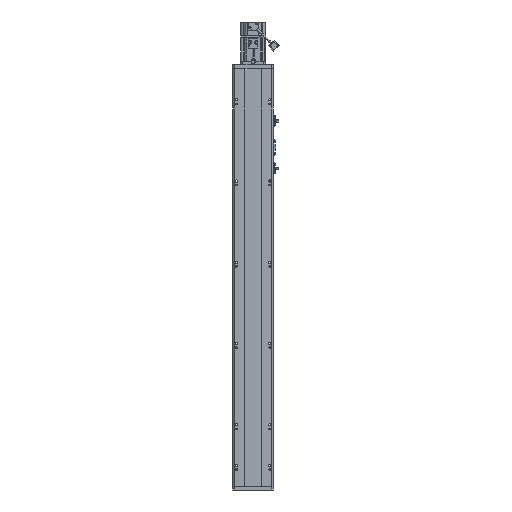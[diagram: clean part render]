
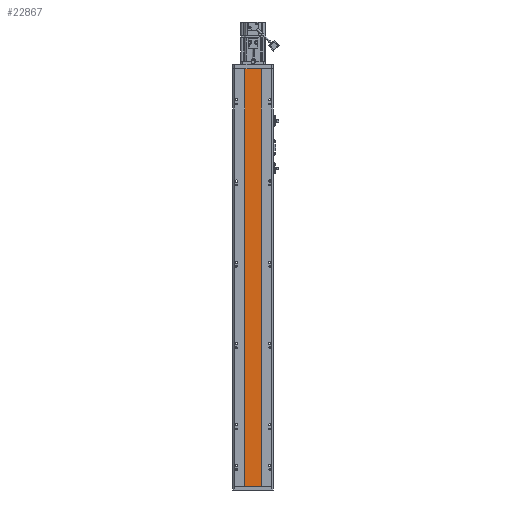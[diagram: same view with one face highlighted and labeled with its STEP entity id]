
A CAD part, front view. The second image highlights one B-rep face of the part: STEP entity #22867.
In plain terms, the highlighted planar face has unit normal (0, -1, 0).
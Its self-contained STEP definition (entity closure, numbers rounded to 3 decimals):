
#801 = VERTEX_POINT ( 'NONE', #1358 ) ;
#1358 = CARTESIAN_POINT ( 'NONE',  ( 20., 0., -1028.5 ) ) ;
#13097 = DIRECTION ( 'NONE',  ( 0., 1., 0. ) ) ;
#13503 = LINE ( 'NONE', #70625, #14040 ) ;
#14040 = VECTOR ( 'NONE', #15770, 1000. ) ;
#15770 = DIRECTION ( 'NONE',  ( -1., 0., 0. ) ) ;
#16000 = LINE ( 'NONE', #100215, #16281 ) ;
#16281 = VECTOR ( 'NONE', #21889, 1000. ) ;
#21555 = VECTOR ( 'NONE', #52305, 1000. ) ;
#21653 = LINE ( 'NONE', #75629, #21555 ) ;
#21889 = DIRECTION ( 'NONE',  ( 0., 0., 1. ) ) ;
#22017 = FACE_OUTER_BOUND ( 'NONE', #26697, .T. ) ;
#22310 = VECTOR ( 'NONE', #74945, 1000. ) ;
#22465 = LINE ( 'NONE', #82912, #22310 ) ;
#22825 = EDGE_CURVE ( 'NONE', #801, #72524, #22465, .T. ) ;
#22865 = EDGE_CURVE ( 'NONE', #72524, #60155, #21653, .T. ) ;
#22867 = ADVANCED_FACE ( 'NONE', ( #22017 ), #98956, .F. ) ;
#23452 = EDGE_CURVE ( 'NONE', #84536, #60155, #16000, .T. ) ;
#23624 = EDGE_CURVE ( 'NONE', #801, #84536, #13503, .T. ) ;
#26697 = EDGE_LOOP ( 'NONE', ( #55142, #57766, #60176, #64706 ) ) ;
#28572 = CARTESIAN_POINT ( 'NONE',  ( 20., 0., -1028.5 ) ) ;
#32291 = CARTESIAN_POINT ( 'NONE',  ( -20., 0., -1028.5 ) ) ;
#32806 = AXIS2_PLACEMENT_3D ( 'NONE', #28572, #13097, #67956 ) ;
#39656 = CARTESIAN_POINT ( 'NONE',  ( 20., 0., 0. ) ) ;
#52305 = DIRECTION ( 'NONE',  ( -1., 0., 0. ) ) ;
#55142 = ORIENTED_EDGE ( 'NONE', *, *, #22865, .T. ) ;
#57766 = ORIENTED_EDGE ( 'NONE', *, *, #23452, .F. ) ;
#60155 = VERTEX_POINT ( 'NONE', #60774 ) ;
#60176 = ORIENTED_EDGE ( 'NONE', *, *, #23624, .F. ) ;
#60774 = CARTESIAN_POINT ( 'NONE',  ( -20., 0., 0. ) ) ;
#64706 = ORIENTED_EDGE ( 'NONE', *, *, #22825, .T. ) ;
#67956 = DIRECTION ( 'NONE',  ( -1., 0., 0. ) ) ;
#70625 = CARTESIAN_POINT ( 'NONE',  ( 20., 0., -1028.5 ) ) ;
#72524 = VERTEX_POINT ( 'NONE', #39656 ) ;
#74945 = DIRECTION ( 'NONE',  ( 0., 0., 1. ) ) ;
#75629 = CARTESIAN_POINT ( 'NONE',  ( 20., 0., 0. ) ) ;
#82912 = CARTESIAN_POINT ( 'NONE',  ( 20., 0., -1028.5 ) ) ;
#84536 = VERTEX_POINT ( 'NONE', #32291 ) ;
#98956 = PLANE ( 'NONE',  #32806 ) ;
#100215 = CARTESIAN_POINT ( 'NONE',  ( -20., 0., -1028.5 ) ) ;
